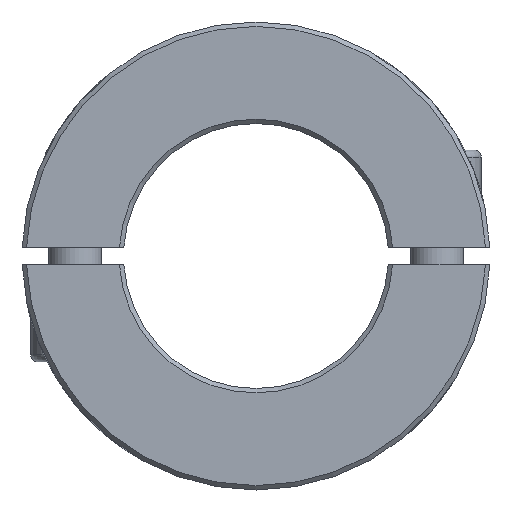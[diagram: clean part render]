
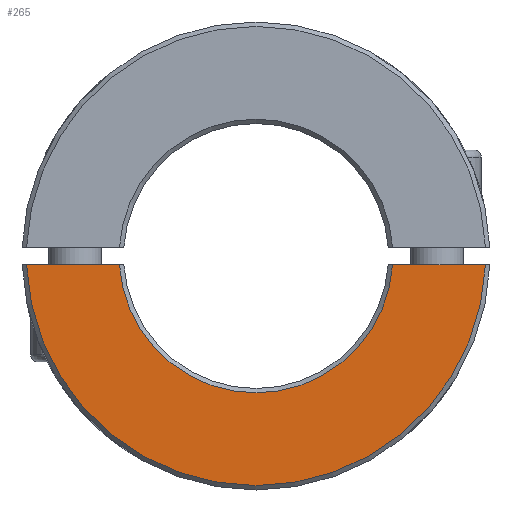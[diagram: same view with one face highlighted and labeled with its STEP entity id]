
A CAD part, front view. The second image highlights one B-rep face of the part: STEP entity #265.
In plain terms, the highlighted planar face has unit normal (0, -1, 0).
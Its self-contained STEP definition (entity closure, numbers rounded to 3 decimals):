
#265 = ADVANCED_FACE( '', ( #541 ), #542, .F. );
#541 = FACE_OUTER_BOUND( '', #877, .T. );
#542 = PLANE( '', #878 );
#877 = EDGE_LOOP( '', ( #1278, #1279, #1280, #1281 ) );
#878 = AXIS2_PLACEMENT_3D( '', #1282, #1283, #1284 );
#1278 = ORIENTED_EDGE( '', *, *, #1885, .F. );
#1279 = ORIENTED_EDGE( '', *, *, #1886, .T. );
#1280 = ORIENTED_EDGE( '', *, *, #1847, .F. );
#1281 = ORIENTED_EDGE( '', *, *, #1887, .T. );
#1282 = CARTESIAN_POINT( '', ( 0., -83., 0. ) );
#1283 = DIRECTION( '', ( 0., 1., 0. ) );
#1284 = DIRECTION( '', ( 0., 0., 1. ) );
#1847 = EDGE_CURVE( '', #2133, #2134, #2135, .T. );
#1885 = EDGE_CURVE( '', #2203, #2204, #2205, .T. );
#1886 = EDGE_CURVE( '', #2203, #2134, #2206, .F. );
#1887 = EDGE_CURVE( '', #2133, #2204, #2207, .T. );
#2133 = VERTEX_POINT( '', #3183 );
#2134 = VERTEX_POINT( '', #3184 );
#2135 = LINE( '', #3185, #3186 );
#2203 = VERTEX_POINT( '', #3796 );
#2204 = VERTEX_POINT( '', #3797 );
#2205 = LINE( '', #3798, #3799 );
#2206 = CIRCLE( '', #3800, 26. );
#2207 = CIRCLE( '', #3801, 15.5 );
#3183 = CARTESIAN_POINT( '', ( 15.468, -83., -1. ) );
#3184 = CARTESIAN_POINT( '', ( 25.981, -83., -1. ) );
#3185 = CARTESIAN_POINT( '', ( 0., -83., -1. ) );
#3186 = VECTOR( '', #4151, 1000. );
#3796 = CARTESIAN_POINT( '', ( -25.981, -83., -1. ) );
#3797 = CARTESIAN_POINT( '', ( -15.468, -83., -1. ) );
#3798 = CARTESIAN_POINT( '', ( 0., -83., -1. ) );
#3799 = VECTOR( '', #4192, 1000. );
#3800 = AXIS2_PLACEMENT_3D( '', #4193, #4194, #4195 );
#3801 = AXIS2_PLACEMENT_3D( '', #4196, #4197, #4198 );
#4151 = DIRECTION( '', ( 1., 0., 0. ) );
#4192 = DIRECTION( '', ( 1., 0., 0. ) );
#4193 = CARTESIAN_POINT( '', ( 0., -83., 0. ) );
#4194 = DIRECTION( '', ( 0., 1., 0. ) );
#4195 = DIRECTION( '', ( 0., 0., 1. ) );
#4196 = CARTESIAN_POINT( '', ( 0., -83., 0. ) );
#4197 = DIRECTION( '', ( 0., 1., 0. ) );
#4198 = DIRECTION( '', ( 0., 0., 1. ) );
